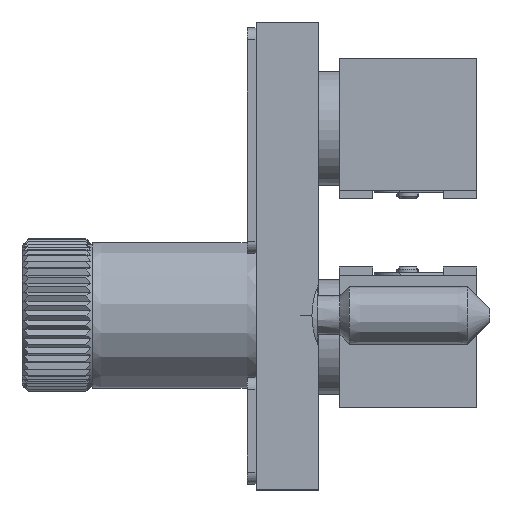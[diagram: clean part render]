
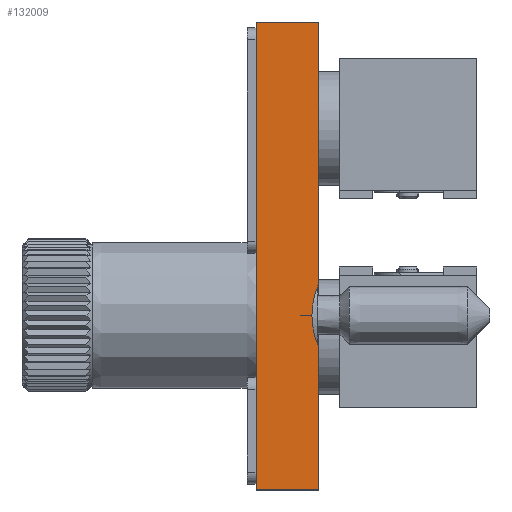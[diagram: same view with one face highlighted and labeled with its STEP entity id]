
A CAD part, front view. The second image highlights one B-rep face of the part: STEP entity #132009.
In plain terms, the highlighted planar face has unit normal (0, -1, 0).
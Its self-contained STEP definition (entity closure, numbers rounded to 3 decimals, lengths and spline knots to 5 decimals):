
#119222=CARTESIAN_POINT('',(-4.27274,-4.502,0.201));
#119271=DIRECTION('',(0.,0.,-1.));
#119272=VECTOR('',#119271,0.294);
#119273=CARTESIAN_POINT('',(-4.27274,-4.502,0.201));
#119274=LINE('',#119273,#119272);
#119350=DIRECTION('',(0.,0.,-1.));
#119351=VECTOR('',#119350,0.494);
#119352=CARTESIAN_POINT('',(-4.27274,-4.502,0.695));
#119353=LINE('',#119352,#119351);
#119428=DIRECTION('',(1.,0.,0.));
#119429=VECTOR('',#119428,0.105);
#119430=CARTESIAN_POINT('',(-4.27274,-4.502,0.695));
#119431=LINE('',#119430,#119429);
#119432=CARTESIAN_POINT('',(-4.16774,-4.502,
0.25406));
#119433=CARTESIAN_POINT('',(-4.16875,-4.502,
0.25154));
#119434=CARTESIAN_POINT('',(-4.17064,-4.502,
0.24649));
#119435=CARTESIAN_POINT('',(-4.1731,-4.502,
0.23885));
#119436=CARTESIAN_POINT('',(-4.17515,-4.502,
0.23121));
#119437=CARTESIAN_POINT('',(-4.17676,-4.502,
0.22356));
#119438=CARTESIAN_POINT('',(-4.17791,-4.502,
0.21596));
#119439=CARTESIAN_POINT('',(-4.1786,-4.502,
0.2084));
#119440=CARTESIAN_POINT('',(-4.17875,-4.502,
0.20344));
#119441=CARTESIAN_POINT('',(-4.17875,-4.502,
0.20097));
#119443=CARTESIAN_POINT('',(-4.17875,-4.502,
0.20097));
#119444=CARTESIAN_POINT('',(-4.17874,-4.502,
0.1985));
#119445=CARTESIAN_POINT('',(-4.17859,-4.502,
0.19353));
#119446=CARTESIAN_POINT('',(-4.1779,-4.502,
0.18595));
#119447=CARTESIAN_POINT('',(-4.17674,-4.502,
0.17834));
#119448=CARTESIAN_POINT('',(-4.17512,-4.502,
0.17069));
#119449=CARTESIAN_POINT('',(-4.17307,-4.502,
0.16306));
#119450=CARTESIAN_POINT('',(-4.17062,-4.502,
0.15545));
#119451=CARTESIAN_POINT('',(-4.16874,-4.502,
0.15044));
#119452=CARTESIAN_POINT('',(-4.16774,-4.502,
0.14794));
#119484=DIRECTION('',(1.,0.,0.));
#119485=VECTOR('',#119484,0.105);
#119486=CARTESIAN_POINT('',(-4.27274,-4.502,
-0.093));
#119487=LINE('',#119486,#119485);
#119493=DIRECTION('',(0.,0.,-1.));
#119494=VECTOR('',#119493,0.44094);
#119495=CARTESIAN_POINT('',(-4.16774,-4.502,0.695));
#119496=LINE('',#119495,#119494);
#119518=DIRECTION('',(0.,0.,-1.));
#119519=VECTOR('',#119518,0.24094);
#119520=CARTESIAN_POINT('',(-4.16774,-4.502,
0.14794));
#119521=LINE('',#119520,#119519);
#128396=CARTESIAN_POINT('',(-4.27274,-4.502,
-0.093));
#128398=VERTEX_POINT('',#128396);
#128401=CARTESIAN_POINT('',(-4.27274,-4.502,0.695));
#128403=VERTEX_POINT('',#128401);
#128404=CARTESIAN_POINT('',(-4.16774,-4.502,
-0.093));
#128406=VERTEX_POINT('',#128404);
#128409=CARTESIAN_POINT('',(-4.16774,-4.502,0.695));
#128411=VERTEX_POINT('',#128409);
#128412=VERTEX_POINT('',#119443);
#128413=VERTEX_POINT('',#119452);
#128420=VERTEX_POINT('',#119432);
#129356=VERTEX_POINT('',#119222);
#131988=CARTESIAN_POINT('',(-4.27274,-4.502,0.695));
#131989=DIRECTION('',(0.,-1.,0.));
#131990=DIRECTION('',(0.,0.,-1.));
#131991=AXIS2_PLACEMENT_3D('',#131988,#131989,#131990);
#131992=PLANE('',#131991);
#131993=ORIENTED_EDGE('',*,*,#131916,.F.);
#131995=ORIENTED_EDGE('',*,*,#131994,.T.);
#131997=ORIENTED_EDGE('',*,*,#131996,.T.);
#131999=ORIENTED_EDGE('',*,*,#131998,.T.);
#132001=ORIENTED_EDGE('',*,*,#132000,.T.);
#132003=ORIENTED_EDGE('',*,*,#132002,.T.);
#132005=ORIENTED_EDGE('',*,*,#132004,.F.);
#132006=ORIENTED_EDGE('',*,*,#131900,.F.);
#132007=EDGE_LOOP('',(#131993,#131995,#131997,#131999,#132001,#132003,#132005,
#132006));
#132008=FACE_OUTER_BOUND('',#132007,.F.);
#132009=ADVANCED_FACE('',(#132008),#131992,.T.);
#119442=B_SPLINE_CURVE_WITH_KNOTS('',3,(#119432,#119433,#119434,#119435,#119436,
#119437,#119438,#119439,#119440,#119441),.UNSPECIFIED.,.F.,.F.,(4,1,1,1,1,1,1,
4),(0.,0.14286,0.28571,0.42857,
0.57143,0.71429,0.85714,1.),.UNSPECIFIED.);
#119453=B_SPLINE_CURVE_WITH_KNOTS('',3,(#119443,#119444,#119445,#119446,#119447,
#119448,#119449,#119450,#119451,#119452),.UNSPECIFIED.,.F.,.F.,(4,1,1,1,1,1,1,
4),(0.,0.14286,0.28571,0.42857,
0.57143,0.71429,0.85714,1.),.UNSPECIFIED.);
#131900=EDGE_CURVE('',#129356,#128398,#119274,.T.);
#131916=EDGE_CURVE('',#128403,#129356,#119353,.T.);
#131994=EDGE_CURVE('',#128403,#128411,#119431,.T.);
#131996=EDGE_CURVE('',#128411,#128420,#119496,.T.);
#131998=EDGE_CURVE('',#128420,#128412,#119442,.T.);
#132000=EDGE_CURVE('',#128412,#128413,#119453,.T.);
#132002=EDGE_CURVE('',#128413,#128406,#119521,.T.);
#132004=EDGE_CURVE('',#128398,#128406,#119487,.T.);
